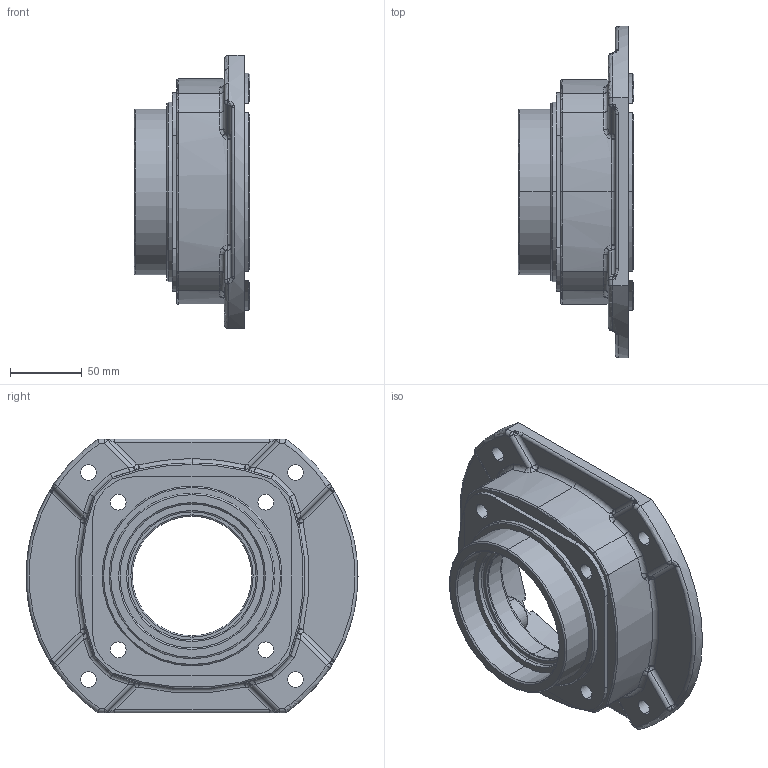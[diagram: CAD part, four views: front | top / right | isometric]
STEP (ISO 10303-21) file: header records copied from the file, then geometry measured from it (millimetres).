
FILE_DESCRIPTION (( 'STEP AP203' ), '1' );
FILE_NAME ('KFYM0662301S.STEP', '2020-05-05T07:37:32', ( 'Microsoft' ), ( 'Microsoft' ), 'SwSTEP 2.0', 'SolidWorks 2012', '' );
FILE_SCHEMA (( 'CONFIG_CONTROL_DESIGN' ));
Length unit declared in the file: millimetre
Products named in the file (1): KFYM0662301S
Bounding box: 80.34 x 230.63 x 190 mm (x, y, z)
Volume: 574502.1 mm3; surface area: 147674.7 mm2
Topology: 1 solids, 1 shells, 421 faces, 998 edges, 576 vertices
Faces by surface type: torus 117, cylinder 100, bspline 88, plane 49, cone 47, sphere 20
Entity records: 16938 total; most frequent: CARTESIAN_POINT 7616, DIRECTION 1999, ORIENTED_EDGE 1956, EDGE_CURVE 978, AXIS2_PLACEMENT_3D 907, VERTEX_POINT 576, CIRCLE 573, EDGE_LOOP 456
